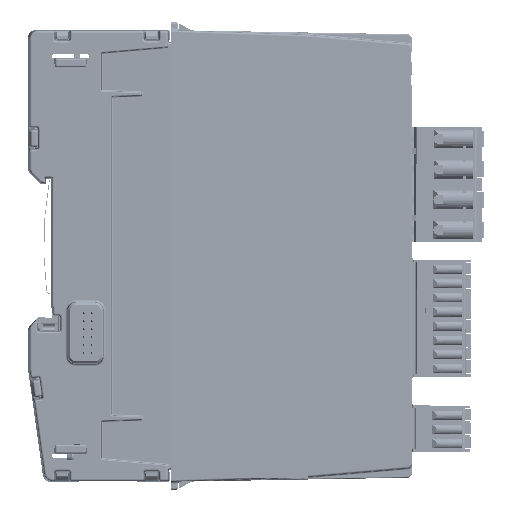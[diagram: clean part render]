
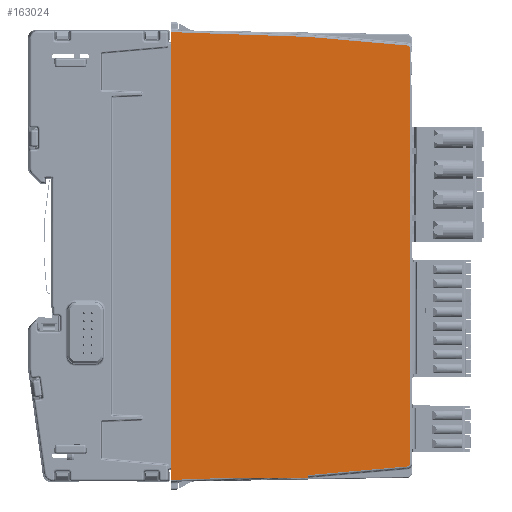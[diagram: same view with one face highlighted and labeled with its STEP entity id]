
A CAD part, left-side view. The second image highlights one B-rep face of the part: STEP entity #163024.
In plain terms, the highlighted planar face has unit normal (-1, -0.018, 0).
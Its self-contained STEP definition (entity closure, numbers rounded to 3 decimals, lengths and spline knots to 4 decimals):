
#15682=FACE_OUTER_BOUND('',#24746,.T.);
#24746=EDGE_LOOP('',(#137423,#137424,#137425,#137426,#137427,#137428,#137429,
#137430,#137431,#137432,#137433,#137434,#137435));
#40625=LINE('',#278275,#57012);
#40638=LINE('',#278347,#57025);
#40695=LINE('',#278575,#57082);
#41025=LINE('',#280403,#57412);
#41026=LINE('',#280405,#57413);
#41027=LINE('',#280409,#57414);
#41028=LINE('',#280413,#57415);
#41029=LINE('',#280415,#57416);
#41030=LINE('',#280417,#57417);
#41031=LINE('',#280419,#57418);
#41032=LINE('',#280420,#57419);
#57012=VECTOR('',#214434,0.3937);
#57025=VECTOR('',#214475,0.3937);
#57082=VECTOR('',#214670,39.3701);
#57412=VECTOR('',#215394,39.3701);
#57413=VECTOR('',#215395,39.3701);
#57414=VECTOR('',#215398,39.3701);
#57415=VECTOR('',#215401,39.3701);
#57416=VECTOR('',#215402,39.3701);
#57417=VECTOR('',#215403,39.3701);
#57418=VECTOR('',#215404,39.3701);
#57419=VECTOR('',#215405,39.3701);
#59782=ELLIPSE('',#175500,0.0315,0.0315);
#59783=ELLIPSE('',#175501,0.0315,0.0315);
#72808=VERTEX_POINT('',#278271);
#72810=VERTEX_POINT('',#278274);
#72832=VERTEX_POINT('',#278342);
#72890=VERTEX_POINT('',#278574);
#73259=VERTEX_POINT('',#280402);
#73260=VERTEX_POINT('',#280404);
#73261=VERTEX_POINT('',#280406);
#73262=VERTEX_POINT('',#280408);
#73263=VERTEX_POINT('',#280410);
#73264=VERTEX_POINT('',#280412);
#73265=VERTEX_POINT('',#280414);
#73266=VERTEX_POINT('',#280416);
#73267=VERTEX_POINT('',#280418);
#94198=EDGE_CURVE('',#72808,#72810,#40625,.T.);
#94225=EDGE_CURVE('',#72810,#72832,#40638,.T.);
#94318=EDGE_CURVE('',#72890,#72832,#40695,.T.);
#94848=EDGE_CURVE('',#72808,#73259,#41025,.T.);
#94849=EDGE_CURVE('',#73259,#73260,#41026,.T.);
#94850=EDGE_CURVE('',#73260,#73261,#59782,.T.);
#94851=EDGE_CURVE('',#73261,#73262,#41027,.T.);
#94852=EDGE_CURVE('',#73262,#73263,#59783,.T.);
#94853=EDGE_CURVE('',#73263,#73264,#41028,.T.);
#94854=EDGE_CURVE('',#73264,#73265,#41029,.T.);
#94855=EDGE_CURVE('',#73265,#73266,#41030,.T.);
#94856=EDGE_CURVE('',#73267,#73266,#41031,.T.);
#94857=EDGE_CURVE('',#73267,#72890,#41032,.T.);
#137423=ORIENTED_EDGE('',*,*,#94848,.T.);
#137424=ORIENTED_EDGE('',*,*,#94849,.T.);
#137425=ORIENTED_EDGE('',*,*,#94850,.T.);
#137426=ORIENTED_EDGE('',*,*,#94851,.T.);
#137427=ORIENTED_EDGE('',*,*,#94852,.T.);
#137428=ORIENTED_EDGE('',*,*,#94853,.T.);
#137429=ORIENTED_EDGE('',*,*,#94854,.T.);
#137430=ORIENTED_EDGE('',*,*,#94855,.T.);
#137431=ORIENTED_EDGE('',*,*,#94856,.F.);
#137432=ORIENTED_EDGE('',*,*,#94857,.T.);
#137433=ORIENTED_EDGE('',*,*,#94318,.T.);
#137434=ORIENTED_EDGE('',*,*,#94225,.F.);
#137435=ORIENTED_EDGE('',*,*,#94198,.F.);
#146614=PLANE('',#175499);
#163024=ADVANCED_FACE('',(#15682),#146614,.T.);
#175499=AXIS2_PLACEMENT_3D('',#280401,#215392,#215393);
#175500=AXIS2_PLACEMENT_3D('',#280407,#215396,#215397);
#175501=AXIS2_PLACEMENT_3D('',#280411,#215399,#215400);
#214434=DIRECTION('',(0.,0.,-1.));
#214475=DIRECTION('',(-0.017,1.,0.));
#214670=DIRECTION('',(0.017,-0.999,0.035));
#215392=DIRECTION('center_axis',(-1.,-0.017,
0.));
#215393=DIRECTION('ref_axis',(-0.017,1.,0.));
#215394=DIRECTION('',(0.017,-0.999,0.035));
#215395=DIRECTION('',(0.017,-0.996,0.087));
#215396=DIRECTION('center_axis',(-1.,-0.017,
0.));
#215397=DIRECTION('ref_axis',(0.017,-1.,0.));
#215398=DIRECTION('',(0.,0.,1.));
#215399=DIRECTION('center_axis',(-1.,-0.017,
0.));
#215400=DIRECTION('ref_axis',(0.017,-1.,0.));
#215401=DIRECTION('',(-0.017,0.996,0.087));
#215402=DIRECTION('',(-0.017,0.999,0.035));
#215403=DIRECTION('',(0.,0.,-1.));
#215404=DIRECTION('',(0.,0.,1.));
#215405=DIRECTION('',(0.,0.,-1.));
#278271=CARTESIAN_POINT('',(0.0005,-2.2096,-4.1958));
#278274=CARTESIAN_POINT('',(0.0005,-2.2096,-4.2206));
#278275=CARTESIAN_POINT('',(0.0005,-2.2096,-3.155));
#278342=CARTESIAN_POINT('',(-0.0119,-1.4997,-4.2206));
#278347=CARTESIAN_POINT('',(-0.0131,-1.4351,-4.2206));
#278574=CARTESIAN_POINT('',(-0.0227,-0.8827,-4.2421));
#278575=CARTESIAN_POINT('',(-0.0282,-0.5654,-4.2532));
#280401=CARTESIAN_POINT('Origin',(-0.0296,-0.489,
-2.0669));
#280402=CARTESIAN_POINT('',(0.0007,-2.2205,-4.1954));
#280403=CARTESIAN_POINT('',(-0.0282,-0.5654,-4.2532));
#280404=CARTESIAN_POINT('',(0.0174,-3.1772,-4.1117));
#280405=CARTESIAN_POINT('',(-0.0261,-0.6869,-4.3296));
#280406=CARTESIAN_POINT('',(0.0179,-3.2059,-4.0803));
#280407=CARTESIAN_POINT('Origin',(0.0173,-3.1744,
-4.0803));
#280408=CARTESIAN_POINT('',(0.0179,-3.2059,-0.0535));
#280409=CARTESIAN_POINT('',(0.0179,-3.2059,-0.0535));
#280410=CARTESIAN_POINT('',(0.0174,-3.1772,-0.0221));
#280411=CARTESIAN_POINT('Origin',(0.0173,-3.1744,
-0.0535));
#280412=CARTESIAN_POINT('',(0.0007,-2.2205,0.0616));
#280413=CARTESIAN_POINT('',(-0.0261,-0.6869,0.1957));
#280414=CARTESIAN_POINT('',(-0.0227,-0.8827,0.1083));
#280415=CARTESIAN_POINT('',(-0.0282,-0.5654,0.1194));
#280416=CARTESIAN_POINT('',(-0.0227,-0.8827,-0.0312));
#280417=CARTESIAN_POINT('',(-0.0227,-0.8827,0.128));
#280418=CARTESIAN_POINT('',(-0.0227,-0.8827,-4.1027));
#280419=CARTESIAN_POINT('',(-0.0227,-0.8827,-7.5932));
#280420=CARTESIAN_POINT('',(-0.0227,-0.8827,0.128));
